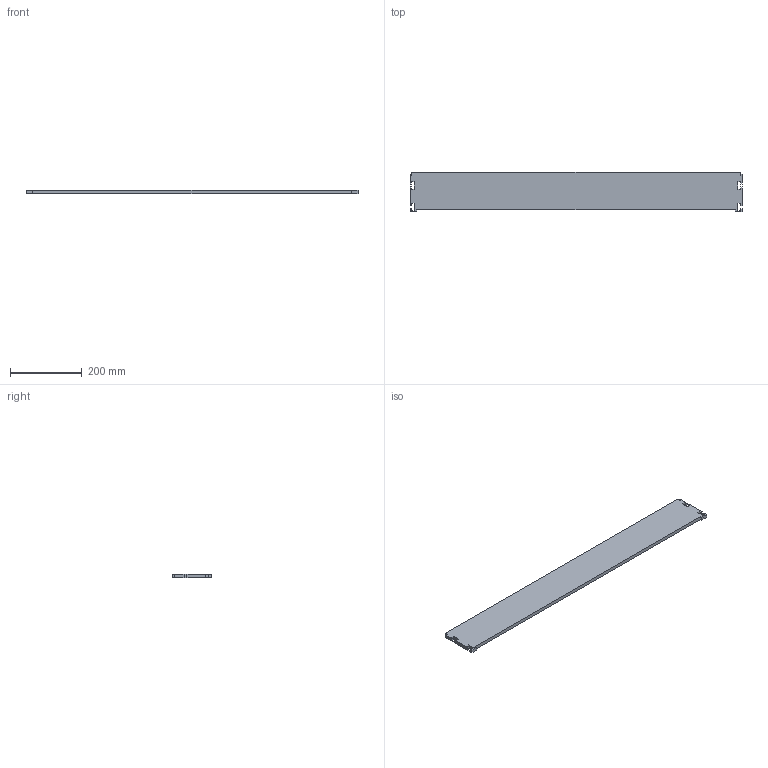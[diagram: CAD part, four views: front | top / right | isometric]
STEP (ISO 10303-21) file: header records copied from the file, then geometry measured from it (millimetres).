
FILE_DESCRIPTION (( 'STEP AP214' ), '1' );
FILE_NAME ('930 baan.STEP', '2017-02-08T12:26:20', ( '' ), ( '' ), 'SwSTEP 2.0', 'SolidWorks 2016', '' );
FILE_SCHEMA (( 'AUTOMOTIVE_DESIGN' ));
Length unit declared in the file: millimetre
Products named in the file (1): 930 baan
Bounding box: 925 x 109 x 10 mm (x, y, z)
Volume: 959733.6 mm3; surface area: 214734.7 mm2
Topology: 1 solids, 1 shells, 54 faces, 156 edges, 104 vertices
Faces by surface type: plane 54
Entity records: 1774 total; most frequent: CARTESIAN_POINT 315, ORIENTED_EDGE 312, DIRECTION 266, VECTOR 156, LINE 156, EDGE_CURVE 156, VERTEX_POINT 104, AXIS2_PLACEMENT_3D 55
